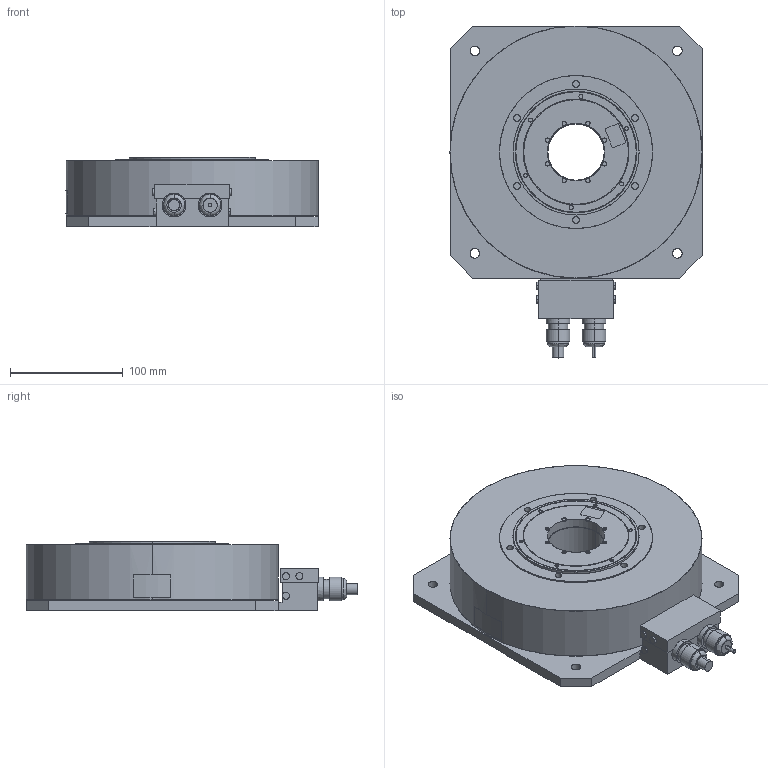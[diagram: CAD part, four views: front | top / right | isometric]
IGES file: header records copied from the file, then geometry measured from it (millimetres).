
Start section: SolidWorks IGES file using analytic representation for surfaces
Global section: file name: \\sv00376\技術2\Y_安川電機\1512027_3Dモデル作成\data\標準\SGM7D-30LFC41\提出準備_再\sgm7d_30lfc41.IGS; native system: SolidWorks 2010; preprocessor: SolidWorks 2010; author: EN00464-1; date: 160208.185506; units: millimetre
Bounding box: 224.1 x 295 x 62.1 mm (x, y, z)
Surface area: 174429 mm2 (no closed solid volume)
Topology: 0 solids, 0 shells, 297 faces, 6759 edges, 6759 vertices
Faces by surface type: revolution 168, bspline 129
